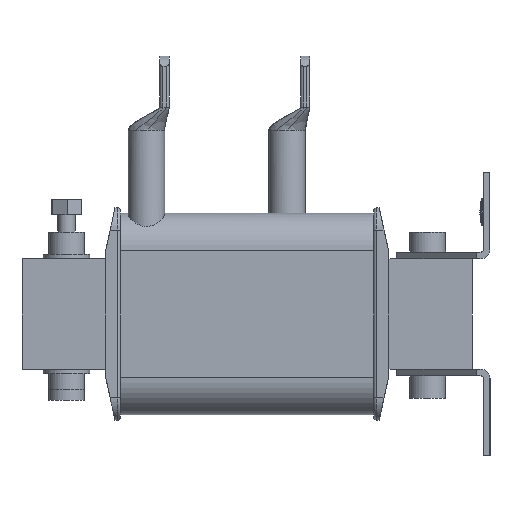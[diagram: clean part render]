
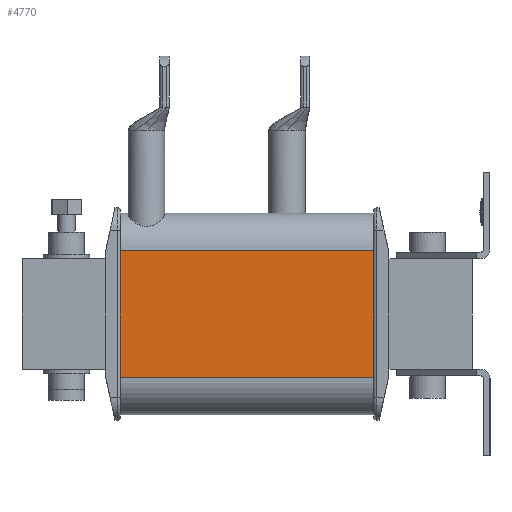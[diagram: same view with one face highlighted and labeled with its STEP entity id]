
A CAD part, left-side view. The second image highlights one B-rep face of the part: STEP entity #4770.
In plain terms, the highlighted planar face has unit normal (-1, 0, 0).
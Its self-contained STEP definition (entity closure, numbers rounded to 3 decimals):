
#355 = LINE ( 'NONE', #6405, #14276 ) ;
#519 = DIRECTION ( 'NONE',  ( 1., 0., 0. ) ) ;
#1194 = VECTOR ( 'NONE', #6935, 1000. ) ;
#1429 = ORIENTED_EDGE ( 'NONE', *, *, #5190, .F. ) ;
#1433 = LINE ( 'NONE', #10722, #1868 ) ;
#1606 = CARTESIAN_POINT ( 'NONE',  ( -119.75, 52.3, 28.4 ) ) ;
#1868 = VECTOR ( 'NONE', #11648, 1000. ) ;
#1880 = PLANE ( 'NONE',  #3352 ) ;
#2888 = DIRECTION ( 'NONE',  ( 0., 0., -1. ) ) ;
#2920 = EDGE_CURVE ( 'NONE', #13901, #4442, #1433, .T. ) ;
#3352 = AXIS2_PLACEMENT_3D ( 'NONE', #14585, #519, #2888 ) ;
#4321 = CARTESIAN_POINT ( 'NONE',  ( -119.75, 166.3, 28.4 ) ) ;
#4432 = CARTESIAN_POINT ( 'NONE',  ( -119.75, 52.3, -28.4 ) ) ;
#4442 = VERTEX_POINT ( 'NONE', #1606 ) ;
#4660 = VECTOR ( 'NONE', #14273, 1000. ) ;
#4770 = ADVANCED_FACE ( 'NONE', ( #7572 ), #1880, .F. ) ;
#5190 = EDGE_CURVE ( 'NONE', #5771, #4442, #5472, .T. ) ;
#5472 = LINE ( 'NONE', #4321, #1194 ) ;
#5771 = VERTEX_POINT ( 'NONE', #7577 ) ;
#6405 = CARTESIAN_POINT ( 'NONE',  ( -119.75, 166.3, -28.4 ) ) ;
#6935 = DIRECTION ( 'NONE',  ( 0., -1., 0. ) ) ;
#7175 = EDGE_CURVE ( 'NONE', #11877, #13901, #355, .T. ) ;
#7572 = FACE_OUTER_BOUND ( 'NONE', #11632, .T. ) ;
#7577 = CARTESIAN_POINT ( 'NONE',  ( -119.75, 166.3, 28.4 ) ) ;
#7993 = ORIENTED_EDGE ( 'NONE', *, *, #7175, .T. ) ;
#8252 = ORIENTED_EDGE ( 'NONE', *, *, #2920, .T. ) ;
#8332 = CARTESIAN_POINT ( 'NONE',  ( -119.75, 166.3, -28.4 ) ) ;
#8589 = EDGE_CURVE ( 'NONE', #11877, #5771, #12625, .T. ) ;
#9480 = CARTESIAN_POINT ( 'NONE',  ( -119.75, 166.3, -28.4 ) ) ;
#10722 = CARTESIAN_POINT ( 'NONE',  ( -119.75, 52.3, -28.4 ) ) ;
#10903 = ORIENTED_EDGE ( 'NONE', *, *, #8589, .F. ) ;
#11632 = EDGE_LOOP ( 'NONE', ( #8252, #1429, #10903, #7993 ) ) ;
#11648 = DIRECTION ( 'NONE',  ( 0., 0., 1. ) ) ;
#11877 = VERTEX_POINT ( 'NONE', #9480 ) ;
#12625 = LINE ( 'NONE', #8332, #4660 ) ;
#13901 = VERTEX_POINT ( 'NONE', #4432 ) ;
#14273 = DIRECTION ( 'NONE',  ( 0., 0., 1. ) ) ;
#14276 = VECTOR ( 'NONE', #14565, 1000. ) ;
#14565 = DIRECTION ( 'NONE',  ( 0., -1., 0. ) ) ;
#14585 = CARTESIAN_POINT ( 'NONE',  ( -119.75, 166.3, -28.4 ) ) ;
